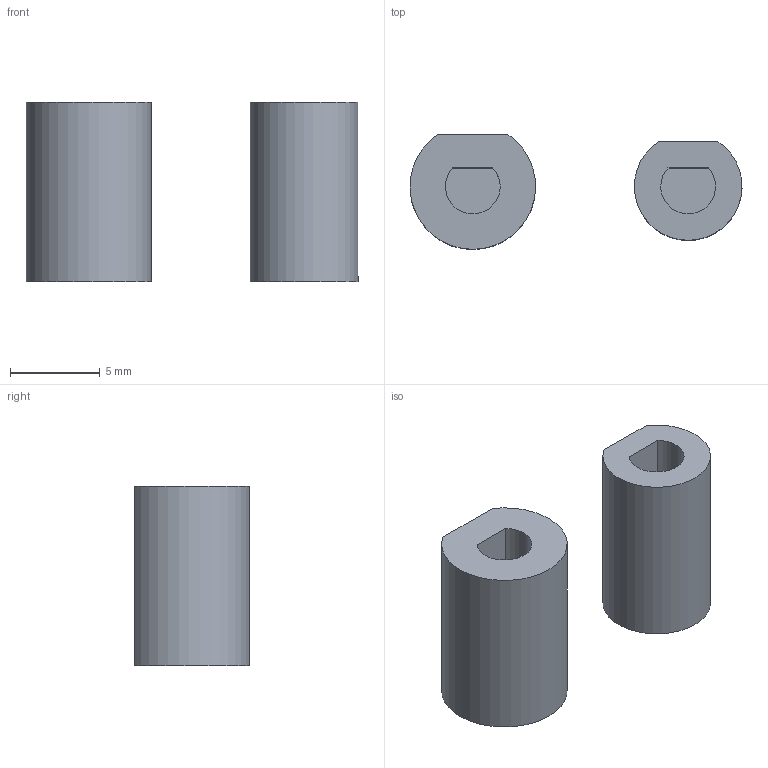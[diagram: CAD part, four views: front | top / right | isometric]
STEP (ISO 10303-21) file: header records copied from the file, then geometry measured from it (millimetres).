
FILE_DESCRIPTION(('Open CASCADE Model'),'2;1');
FILE_NAME('Open CASCADE Shape Model','2026-11-11T07:41:05',('Author'),( 'Open CASCADE'),'Open CASCADE STEP processor 8.0','build123d', 'Unknown');
FILE_SCHEMA(('AUTOMOTIVE_DESIGN { 1 0 10303 214 1 1 1 1 }'));
Length unit declared in the file: millimetre
Products named in the file (3): COMPOUND
Assembly tree (2 placements, depth 2):
  COMPOUND
    COMPOUND
    COMPOUND
Bounding box: 18.49 x 6.4 x 10 mm (x, y, z)
Volume: 561.9 mm3; surface area: 643.7 mm2
Topology: 2 solids, 2 shells, 14 faces, 24 edges, 16 vertices
Faces by surface type: plane 10, cylinder 4
Entity records: 666 total; most frequent: CARTESIAN_POINT 149, DIRECTION 80, ORIENTED_EDGE 48, PCURVE 48, DEFINITIONAL_REPRESENTATION 48, B_SPLINE_CURVE_WITH_KNOTS 32, AXIS2_PLACEMENT_3D 25, EDGE_CURVE 24
